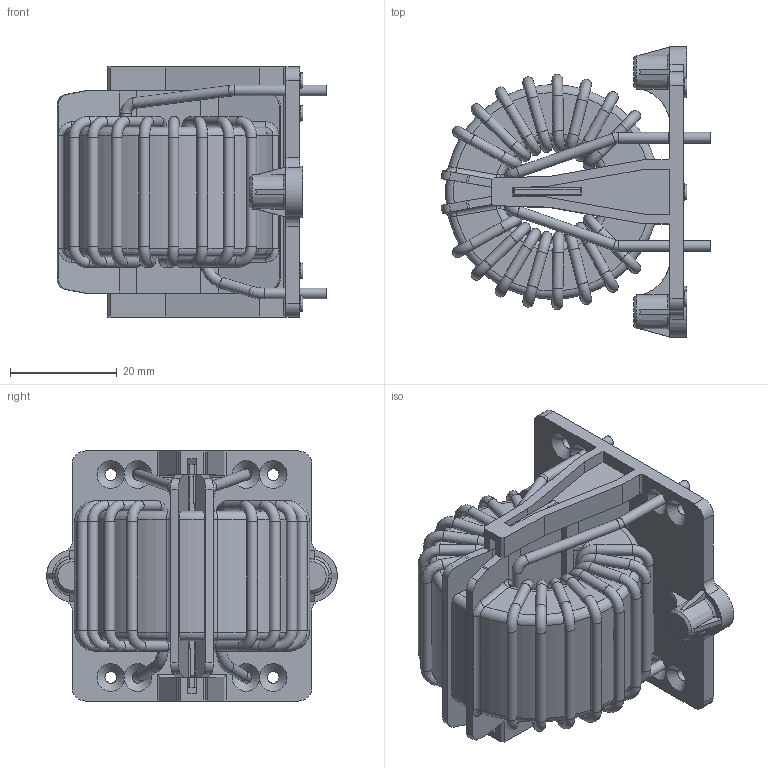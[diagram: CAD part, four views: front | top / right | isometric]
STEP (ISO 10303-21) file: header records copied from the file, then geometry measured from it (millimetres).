
FILE_DESCRIPTION((''),'2;1');
FILE_NAME('K:\Development\Projects\RB\Angel_standard choke series 2011\70_Realization_Revision\702_MechanicalDesign\RB6522-16-1M0.stp','2012-11-15T11:31:19',('BIN.FAN'),(''),'Autodesk Inventor 2010','Autodesk Inventor 2010','');
FILE_SCHEMA(('AUTOMOTIVE_DESIGN { 1 0 10303 214 1 1 1 1 }'));
Length unit declared in the file: millimetre
Products named in the file (1): RB6522-16-1M0  for customer_包覆面提取_1
Bounding box: 50.65 x 54.58 x 46.93 mm (x, y, z)
Volume: 37572.9 mm3; surface area: 25826 mm2
Topology: 1 solids, 1 shells, 831 faces, 2341 edges, 1376 vertices
Faces by surface type: plane 317, cylinder 177, bspline 169, torus 134, cone 34
Full cylindrical faces by diameter (mm): 2 x41, 2.2 x8, 3 x6, 9.6 x2
Entity records: 33528 total; most frequent: CARTESIAN_POINT 13013, ORIENTED_EDGE 4470, DIRECTION 3595, EDGE_CURVE 2235, VERTEX_POINT 1344, AXIS2_PLACEMENT_3D 1285, VECTOR 1025, LINE 1025
